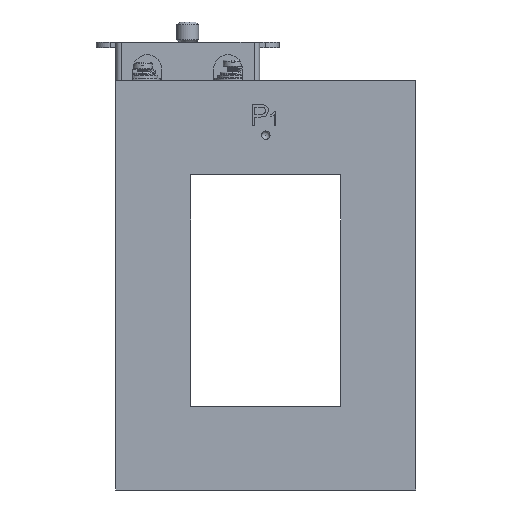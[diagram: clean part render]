
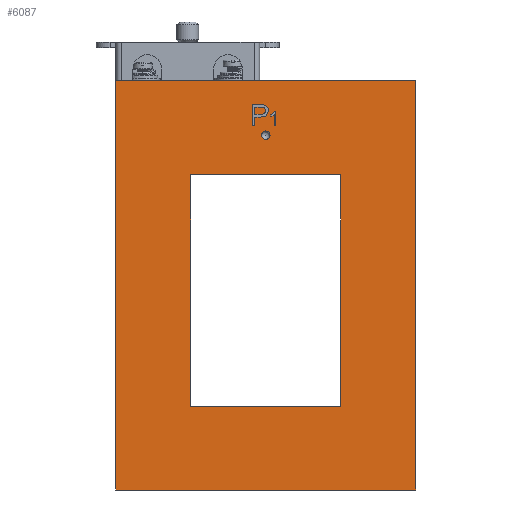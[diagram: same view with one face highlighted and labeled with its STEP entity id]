
A CAD part, left-side view. The second image highlights one B-rep face of the part: STEP entity #6087.
In plain terms, the highlighted planar face has unit normal (-1, 0, 0).
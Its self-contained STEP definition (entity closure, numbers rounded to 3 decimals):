
#90=FACE_BOUND('',#865,.T.);
#91=FACE_BOUND('',#866,.T.);
#195=PLANE('',#6743);
#517=FACE_OUTER_BOUND('',#864,.T.);
#864=EDGE_LOOP('',(#5137,#5138,#5139,#5140));
#865=EDGE_LOOP('',(#5141,#5142,#5143,#5144));
#866=EDGE_LOOP('',(#5145));
#1187=CIRCLE('',#6738,1.536);
#1674=LINE('',#21042,#2086);
#1678=LINE('',#21051,#2090);
#1686=LINE('',#21065,#2098);
#1687=LINE('',#21067,#2099);
#1689=LINE('',#21072,#2101);
#1692=LINE('',#21083,#2104);
#1694=LINE('',#21086,#2106);
#1695=LINE('',#21088,#2107);
#2086=VECTOR('',#8294,1.);
#2090=VECTOR('',#8300,1.);
#2098=VECTOR('',#8312,1.);
#2099=VECTOR('',#8315,1.);
#2101=VECTOR('',#8319,1.);
#2104=VECTOR('',#8330,1.);
#2106=VECTOR('',#8334,1.);
#2107=VECTOR('',#8337,1.);
#2658=VERTEX_POINT('',#21039);
#2659=VERTEX_POINT('',#21041);
#2662=VERTEX_POINT('',#21048);
#2663=VERTEX_POINT('',#21050);
#2668=VERTEX_POINT('',#21069);
#2669=VERTEX_POINT('',#21071);
#2670=VERTEX_POINT('',#21075);
#2672=VERTEX_POINT('',#21080);
#2673=VERTEX_POINT('',#21082);
#3481=EDGE_CURVE('',#2659,#2658,#1674,.T.);
#3485=EDGE_CURVE('',#2663,#2662,#1678,.T.);
#3493=EDGE_CURVE('',#2662,#2659,#1686,.T.);
#3494=EDGE_CURVE('',#2658,#2663,#1687,.T.);
#3496=EDGE_CURVE('',#2669,#2668,#1689,.T.);
#3498=EDGE_CURVE('',#2670,#2670,#1187,.T.);
#3501=EDGE_CURVE('',#2672,#2673,#1692,.T.);
#3503=EDGE_CURVE('',#2672,#2669,#1694,.T.);
#3504=EDGE_CURVE('',#2673,#2668,#1695,.T.);
#5137=ORIENTED_EDGE('',*,*,#3504,.F.);
#5138=ORIENTED_EDGE('',*,*,#3501,.F.);
#5139=ORIENTED_EDGE('',*,*,#3503,.T.);
#5140=ORIENTED_EDGE('',*,*,#3496,.T.);
#5141=ORIENTED_EDGE('',*,*,#3494,.T.);
#5142=ORIENTED_EDGE('',*,*,#3485,.T.);
#5143=ORIENTED_EDGE('',*,*,#3493,.T.);
#5144=ORIENTED_EDGE('',*,*,#3481,.T.);
#5145=ORIENTED_EDGE('',*,*,#3498,.T.);
#6087=ADVANCED_FACE('',(#517,#90,#91),#195,.F.);
#6738=AXIS2_PLACEMENT_3D('',#21076,#8323,#8324);
#6743=AXIS2_PLACEMENT_3D('',#21089,#8338,#8339);
#8294=DIRECTION('',(0.,0.,-1.));
#8300=DIRECTION('',(0.,0.,1.));
#8312=DIRECTION('',(0.,-1.,0.));
#8315=DIRECTION('',(0.,1.,0.));
#8319=DIRECTION('',(0.,-1.,0.));
#8323=DIRECTION('center_axis',(1.,0.,0.));
#8324=DIRECTION('ref_axis',(0.,0.,-1.));
#8330=DIRECTION('',(0.,-1.,0.));
#8334=DIRECTION('',(0.,0.,-1.));
#8337=DIRECTION('',(0.,0.,-1.));
#8338=DIRECTION('center_axis',(1.,0.,0.));
#8339=DIRECTION('ref_axis',(0.,0.,-1.));
#21039=CARTESIAN_POINT('',(832.259,-851.083,-879.426));
#21041=CARTESIAN_POINT('',(832.259,-851.083,-794.426));
#21042=CARTESIAN_POINT('',(832.259,-851.083,-852.176));
#21048=CARTESIAN_POINT('',(832.259,-796.083,-794.426));
#21050=CARTESIAN_POINT('',(832.259,-796.083,-879.426));
#21051=CARTESIAN_POINT('',(832.259,-796.083,-809.676));
#21065=CARTESIAN_POINT('',(832.259,-837.333,-794.426));
#21067=CARTESIAN_POINT('',(832.259,-809.833,-879.426));
#21069=CARTESIAN_POINT('',(832.259,-878.583,-909.926));
#21071=CARTESIAN_POINT('',(832.259,-768.583,-909.926));
#21072=CARTESIAN_POINT('',(832.259,-768.583,-909.926));
#21075=CARTESIAN_POINT('',(832.259,-822.047,-779.898));
#21076=CARTESIAN_POINT('Origin',(832.259,-823.583,-779.898));
#21080=CARTESIAN_POINT('',(832.259,-768.583,-759.926));
#21082=CARTESIAN_POINT('',(832.259,-878.583,-759.926));
#21083=CARTESIAN_POINT('',(832.259,-768.583,-759.926));
#21086=CARTESIAN_POINT('',(832.259,-768.583,-889.926));
#21088=CARTESIAN_POINT('',(832.259,-878.583,-759.926));
#21089=CARTESIAN_POINT('Origin',(832.259,-823.583,-824.926));
